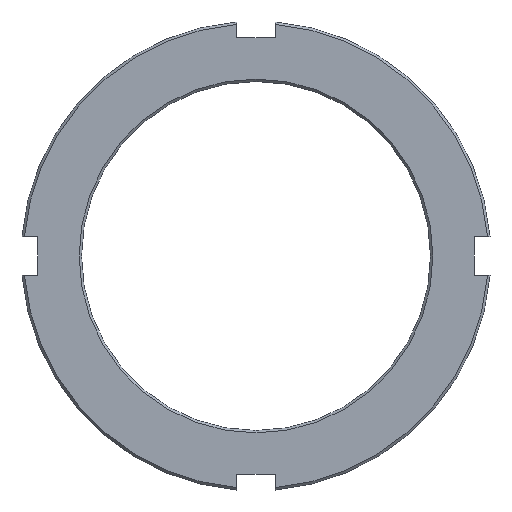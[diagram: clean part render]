
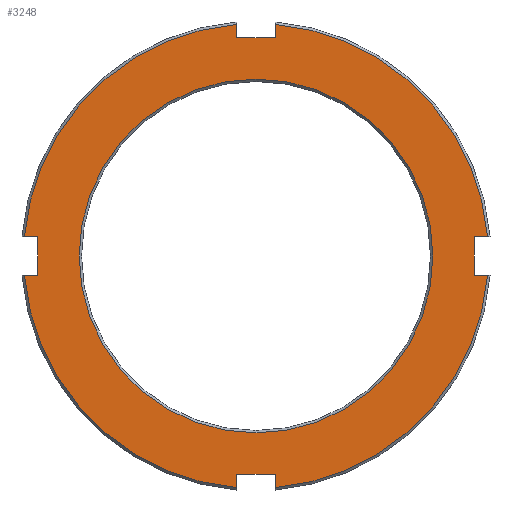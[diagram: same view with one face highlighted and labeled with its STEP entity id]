
A CAD part, front view. The second image highlights one B-rep face of the part: STEP entity #3248.
In plain terms, the highlighted planar face has unit normal (0, -1, 0).
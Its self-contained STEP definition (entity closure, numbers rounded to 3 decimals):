
#49=CIRCLE('',#3397,36.917);
#53=CIRCLE('',#3403,48.5);
#54=CIRCLE('',#3404,48.5);
#55=CIRCLE('',#3405,48.5);
#56=CIRCLE('',#3406,48.5);
#223=FACE_BOUND('',#560,.T.);
#370=FACE_OUTER_BOUND('',#559,.T.);
#559=EDGE_LOOP('',(#2833,#2834,#2835,#2836,#2837,#2838,#2839,#2840,#2841,
#2842,#2843,#2844,#2845,#2846,#2847,#2848));
#560=EDGE_LOOP('',(#2849));
#887=LINE('',#5499,#1226);
#888=LINE('',#5501,#1227);
#889=LINE('',#5503,#1228);
#890=LINE('',#5507,#1229);
#891=LINE('',#5509,#1230);
#892=LINE('',#5511,#1231);
#893=LINE('',#5515,#1232);
#894=LINE('',#5517,#1233);
#895=LINE('',#5519,#1234);
#896=LINE('',#5523,#1235);
#897=LINE('',#5525,#1236);
#898=LINE('',#5526,#1237);
#1226=VECTOR('',#3961,10.);
#1227=VECTOR('',#3962,10.);
#1228=VECTOR('',#3963,10.);
#1229=VECTOR('',#3966,10.);
#1230=VECTOR('',#3967,10.);
#1231=VECTOR('',#3968,10.);
#1232=VECTOR('',#3971,10.);
#1233=VECTOR('',#3972,10.);
#1234=VECTOR('',#3973,10.);
#1235=VECTOR('',#3976,10.);
#1236=VECTOR('',#3977,10.);
#1237=VECTOR('',#3978,10.);
#1528=VERTEX_POINT('',#5483);
#1532=VERTEX_POINT('',#5495);
#1533=VERTEX_POINT('',#5496);
#1534=VERTEX_POINT('',#5498);
#1535=VERTEX_POINT('',#5500);
#1536=VERTEX_POINT('',#5502);
#1537=VERTEX_POINT('',#5504);
#1538=VERTEX_POINT('',#5506);
#1539=VERTEX_POINT('',#5508);
#1540=VERTEX_POINT('',#5510);
#1541=VERTEX_POINT('',#5512);
#1542=VERTEX_POINT('',#5514);
#1543=VERTEX_POINT('',#5516);
#1544=VERTEX_POINT('',#5518);
#1545=VERTEX_POINT('',#5520);
#1546=VERTEX_POINT('',#5522);
#1547=VERTEX_POINT('',#5524);
#1970=EDGE_CURVE('',#1528,#1528,#49,.T.);
#1976=EDGE_CURVE('',#1532,#1533,#53,.T.);
#1977=EDGE_CURVE('',#1532,#1534,#887,.T.);
#1978=EDGE_CURVE('',#1534,#1535,#888,.T.);
#1979=EDGE_CURVE('',#1535,#1536,#889,.T.);
#1980=EDGE_CURVE('',#1537,#1536,#54,.T.);
#1981=EDGE_CURVE('',#1537,#1538,#890,.T.);
#1982=EDGE_CURVE('',#1538,#1539,#891,.T.);
#1983=EDGE_CURVE('',#1539,#1540,#892,.T.);
#1984=EDGE_CURVE('',#1541,#1540,#55,.T.);
#1985=EDGE_CURVE('',#1541,#1542,#893,.T.);
#1986=EDGE_CURVE('',#1542,#1543,#894,.T.);
#1987=EDGE_CURVE('',#1543,#1544,#895,.T.);
#1988=EDGE_CURVE('',#1545,#1544,#56,.T.);
#1989=EDGE_CURVE('',#1545,#1546,#896,.T.);
#1990=EDGE_CURVE('',#1546,#1547,#897,.T.);
#1991=EDGE_CURVE('',#1547,#1533,#898,.T.);
#2833=ORIENTED_EDGE('',*,*,#1976,.F.);
#2834=ORIENTED_EDGE('',*,*,#1977,.T.);
#2835=ORIENTED_EDGE('',*,*,#1978,.T.);
#2836=ORIENTED_EDGE('',*,*,#1979,.T.);
#2837=ORIENTED_EDGE('',*,*,#1980,.F.);
#2838=ORIENTED_EDGE('',*,*,#1981,.T.);
#2839=ORIENTED_EDGE('',*,*,#1982,.T.);
#2840=ORIENTED_EDGE('',*,*,#1983,.T.);
#2841=ORIENTED_EDGE('',*,*,#1984,.F.);
#2842=ORIENTED_EDGE('',*,*,#1985,.T.);
#2843=ORIENTED_EDGE('',*,*,#1986,.T.);
#2844=ORIENTED_EDGE('',*,*,#1987,.T.);
#2845=ORIENTED_EDGE('',*,*,#1988,.F.);
#2846=ORIENTED_EDGE('',*,*,#1989,.T.);
#2847=ORIENTED_EDGE('',*,*,#1990,.T.);
#2848=ORIENTED_EDGE('',*,*,#1991,.T.);
#2849=ORIENTED_EDGE('',*,*,#1970,.F.);
#3088=PLANE('',#3402);
#3248=ADVANCED_FACE('',(#370,#223),#3088,.T.);
#3397=AXIS2_PLACEMENT_3D('',#5484,#3945,#3946);
#3402=AXIS2_PLACEMENT_3D('',#5494,#3957,#3958);
#3403=AXIS2_PLACEMENT_3D('',#5497,#3959,#3960);
#3404=AXIS2_PLACEMENT_3D('',#5505,#3964,#3965);
#3405=AXIS2_PLACEMENT_3D('',#5513,#3969,#3970);
#3406=AXIS2_PLACEMENT_3D('',#5521,#3974,#3975);
#3945=DIRECTION('center_axis',(0.,-1.,0.));
#3946=DIRECTION('ref_axis',(1.,0.,0.));
#3957=DIRECTION('center_axis',(0.,-1.,0.));
#3958=DIRECTION('ref_axis',(0.,0.,-1.));
#3959=DIRECTION('center_axis',(0.,1.,0.));
#3960=DIRECTION('ref_axis',(0.997,0.,-0.082));
#3961=DIRECTION('',(-1.,0.,0.));
#3962=DIRECTION('',(0.,0.,1.));
#3963=DIRECTION('',(1.,0.,0.));
#3964=DIRECTION('center_axis',(0.,1.,0.));
#3965=DIRECTION('ref_axis',(0.082,0.,0.997));
#3966=DIRECTION('',(0.,0.,-1.));
#3967=DIRECTION('',(-1.,0.,0.));
#3968=DIRECTION('',(0.,0.,1.));
#3969=DIRECTION('center_axis',(0.,1.,0.));
#3970=DIRECTION('ref_axis',(-0.997,0.,0.082));
#3971=DIRECTION('',(1.,0.,0.));
#3972=DIRECTION('',(0.,0.,-1.));
#3973=DIRECTION('',(-1.,0.,0.));
#3974=DIRECTION('center_axis',(0.,1.,0.));
#3975=DIRECTION('ref_axis',(-0.082,0.,-0.997));
#3976=DIRECTION('',(0.,0.,1.));
#3977=DIRECTION('',(1.,0.,0.));
#3978=DIRECTION('',(0.,0.,-1.));
#5483=CARTESIAN_POINT('',(-36.917,0.,0.));
#5484=CARTESIAN_POINT('Origin',(0.,0.,0.));
#5494=CARTESIAN_POINT('Origin',(0.,0.,0.));
#5495=CARTESIAN_POINT('',(48.335,0.,-4.));
#5496=CARTESIAN_POINT('',(4.,0.,-48.335));
#5497=CARTESIAN_POINT('Origin',(0.,0.,0.));
#5498=CARTESIAN_POINT('',(45.5,0.,-4.));
#5499=CARTESIAN_POINT('',(48.836,0.,-4.));
#5500=CARTESIAN_POINT('',(45.5,0.,4.));
#5501=CARTESIAN_POINT('',(45.5,0.,-4.));
#5502=CARTESIAN_POINT('',(48.335,0.,4.));
#5503=CARTESIAN_POINT('',(45.5,0.,4.));
#5504=CARTESIAN_POINT('',(4.,0.,48.335));
#5505=CARTESIAN_POINT('Origin',(0.,0.,0.));
#5506=CARTESIAN_POINT('',(4.,0.,45.5));
#5507=CARTESIAN_POINT('',(4.,0.,48.836));
#5508=CARTESIAN_POINT('',(-4.,0.,45.5));
#5509=CARTESIAN_POINT('',(4.,0.,45.5));
#5510=CARTESIAN_POINT('',(-4.,0.,48.335));
#5511=CARTESIAN_POINT('',(-4.,0.,45.5));
#5512=CARTESIAN_POINT('',(-48.335,0.,4.));
#5513=CARTESIAN_POINT('Origin',(0.,0.,0.));
#5514=CARTESIAN_POINT('',(-45.5,0.,4.));
#5515=CARTESIAN_POINT('',(-48.836,0.,4.));
#5516=CARTESIAN_POINT('',(-45.5,0.,-4.));
#5517=CARTESIAN_POINT('',(-45.5,0.,4.));
#5518=CARTESIAN_POINT('',(-48.335,0.,-4.));
#5519=CARTESIAN_POINT('',(-45.5,0.,-4.));
#5520=CARTESIAN_POINT('',(-4.,0.,-48.335));
#5521=CARTESIAN_POINT('Origin',(0.,0.,0.));
#5522=CARTESIAN_POINT('',(-4.,0.,-45.5));
#5523=CARTESIAN_POINT('',(-4.,0.,-48.836));
#5524=CARTESIAN_POINT('',(4.,0.,-45.5));
#5525=CARTESIAN_POINT('',(-4.,0.,-45.5));
#5526=CARTESIAN_POINT('',(4.,0.,-45.5));
